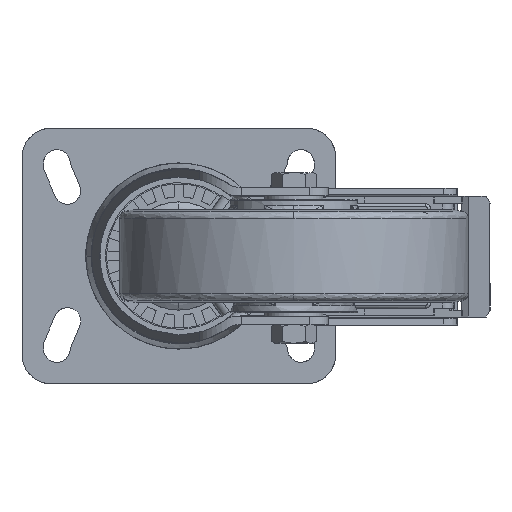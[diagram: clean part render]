
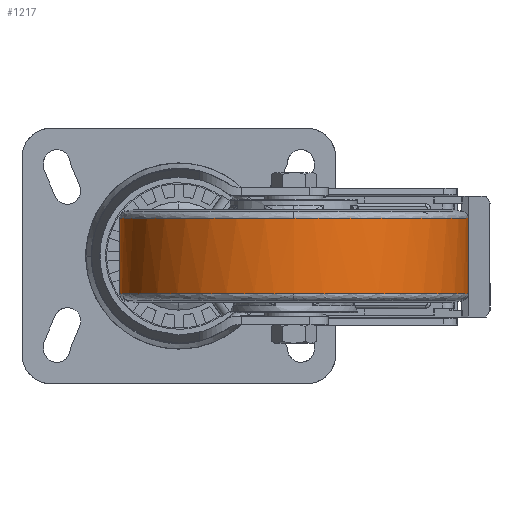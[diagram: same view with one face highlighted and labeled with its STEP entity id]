
A CAD part, front view. The second image highlights one B-rep face of the part: STEP entity #1217.
In plain terms, the highlighted cylindrical face has radius 75 mm (diameter 150 mm), a partial arc.
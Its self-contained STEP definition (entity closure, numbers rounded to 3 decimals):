
#628=CARTESIAN_POINT('',(-25.5,-113.1,-16.248));
#629=VERTEX_POINT('',#628);
#651=CARTESIAN_POINT('',(-25.5,-113.1,16.248));
#652=VERTEX_POINT('',#651);
#653=CARTESIAN_POINT('',(-25.5,-113.1,-16.248));
#654=DIRECTION('',(0.0,0.0,1.0));
#655=VECTOR('',#654,32.497);
#656=LINE('',#653,#655);
#657=EDGE_CURVE('',#629,#652,#656,.T.);
#682=CARTESIAN_POINT('',(124.5,-113.1,16.248));
#683=VERTEX_POINT('',#682);
#705=CARTESIAN_POINT('',(124.5,-113.1,-16.248));
#706=VERTEX_POINT('',#705);
#707=CARTESIAN_POINT('',(124.5,-113.1,-16.248));
#708=DIRECTION('',(0.0,0.0,1.0));
#709=VECTOR('',#708,32.497);
#710=LINE('',#707,#709);
#711=EDGE_CURVE('',#706,#683,#710,.T.);
#899=CARTESIAN_POINT('',(49.5,-188.1,-16.248));
#900=VERTEX_POINT('',#899);
#911=CARTESIAN_POINT('',(-25.5,-113.1,-16.248));
#912=CARTESIAN_POINT('',(-25.5,-118.009,-16.248));
#913=CARTESIAN_POINT('',(-25.017,-122.917,-16.248));
#914=CARTESIAN_POINT('',(-23.101,-132.546,-16.248));
#915=CARTESIAN_POINT('',(-21.669,-137.266,-16.248));
#916=CARTESIAN_POINT('',(-17.912,-146.336,-16.248));
#917=CARTESIAN_POINT('',(-15.587,-150.686,-16.248));
#918=CARTESIAN_POINT('',(-10.133,-158.849,-16.248));
#919=CARTESIAN_POINT('',(-7.004,-162.662,-16.248));
#920=CARTESIAN_POINT('',(-0.062,-169.604,-16.248));
#921=CARTESIAN_POINT('',(3.751,-172.733,-16.248));
#922=CARTESIAN_POINT('',(11.914,-178.187,-16.248));
#923=CARTESIAN_POINT('',(16.264,-180.512,-16.248));
#924=CARTESIAN_POINT('',(25.334,-184.269,-16.248));
#925=CARTESIAN_POINT('',(30.054,-185.701,-16.248));
#926=CARTESIAN_POINT('',(39.683,-187.617,-16.248));
#927=CARTESIAN_POINT('',(44.591,-188.1,-16.248));
#928=CARTESIAN_POINT('',(49.5,-188.1,-16.248));
#929=B_SPLINE_CURVE_WITH_KNOTS('',3,(#911,#912,#913,#914,#915,#916,#917,#918,#919,#920,#921,#922,#923,#924,#925,#926,#927,#928),.UNSPECIFIED.,.F.,.U.,(4,2,2,2,2,2,2,2,4),(0.5,0.563,0.625,0.688,0.75,0.813,0.875,0.938,1.0),.UNSPECIFIED.);
#930=EDGE_CURVE('',#629,#900,#929,.T.);
#1109=CARTESIAN_POINT('',(49.5,-188.1,-16.248));
#1110=CARTESIAN_POINT('',(54.409,-188.1,-16.248));
#1111=CARTESIAN_POINT('',(59.317,-187.617,-16.248));
#1112=CARTESIAN_POINT('',(68.946,-185.701,-16.248));
#1113=CARTESIAN_POINT('',(73.666,-184.269,-16.248));
#1114=CARTESIAN_POINT('',(82.736,-180.512,-16.248));
#1115=CARTESIAN_POINT('',(87.086,-178.187,-16.248));
#1116=CARTESIAN_POINT('',(95.249,-172.733,-16.248));
#1117=CARTESIAN_POINT('',(99.062,-169.604,-16.248));
#1118=CARTESIAN_POINT('',(106.004,-162.662,-16.248));
#1119=CARTESIAN_POINT('',(109.133,-158.849,-16.248));
#1120=CARTESIAN_POINT('',(114.587,-150.686,-16.248));
#1121=CARTESIAN_POINT('',(116.912,-146.336,-16.248));
#1122=CARTESIAN_POINT('',(120.669,-137.266,-16.248));
#1123=CARTESIAN_POINT('',(122.101,-132.546,-16.248));
#1124=CARTESIAN_POINT('',(124.017,-122.917,-16.248));
#1125=CARTESIAN_POINT('',(124.5,-118.009,-16.248));
#1126=CARTESIAN_POINT('',(124.5,-113.1,-16.248));
#1127=B_SPLINE_CURVE_WITH_KNOTS('',3,(#1109,#1110,#1111,#1112,#1113,#1114,#1115,#1116,#1117,#1118,#1119,#1120,#1121,#1122,#1123,#1124,#1125,#1126),.UNSPECIFIED.,.F.,.U.,(4,2,2,2,2,2,2,2,4),(0.0,0.063,0.125,0.188,0.25,0.313,0.375,0.438,0.5),.UNSPECIFIED.);
#1128=EDGE_CURVE('',#900,#706,#1127,.T.);
#1162=CARTESIAN_POINT('',(49.5,-113.1,-16.248));
#1163=DIRECTION('',(0.0,0.0,1.0));
#1164=DIRECTION('',(0.0,1.0,0.0));
#1165=AXIS2_PLACEMENT_3D('',#1162,#1163,#1164);
#1166=CYLINDRICAL_SURFACE('',#1165,75.);
#1167=ORIENTED_EDGE('',*,*,#657,.F.);
#1168=ORIENTED_EDGE('',*,*,#930,.T.);
#1169=ORIENTED_EDGE('',*,*,#1128,.T.);
#1170=ORIENTED_EDGE('',*,*,#711,.T.);
#1171=CARTESIAN_POINT('',(49.5,-188.1,16.248));
#1172=VERTEX_POINT('',#1171);
#1173=CARTESIAN_POINT('',(124.5,-113.1,16.248));
#1174=CARTESIAN_POINT('',(124.5,-118.009,16.248));
#1175=CARTESIAN_POINT('',(124.017,-122.917,16.248));
#1176=CARTESIAN_POINT('',(122.101,-132.546,16.248));
#1177=CARTESIAN_POINT('',(120.669,-137.266,16.248));
#1178=CARTESIAN_POINT('',(116.912,-146.336,16.248));
#1179=CARTESIAN_POINT('',(114.587,-150.686,16.248));
#1180=CARTESIAN_POINT('',(109.133,-158.849,16.248));
#1181=CARTESIAN_POINT('',(106.004,-162.662,16.248));
#1182=CARTESIAN_POINT('',(99.062,-169.604,16.248));
#1183=CARTESIAN_POINT('',(95.249,-172.733,16.248));
#1184=CARTESIAN_POINT('',(87.086,-178.187,16.248));
#1185=CARTESIAN_POINT('',(82.736,-180.512,16.248));
#1186=CARTESIAN_POINT('',(73.666,-184.269,16.248));
#1187=CARTESIAN_POINT('',(68.946,-185.701,16.248));
#1188=CARTESIAN_POINT('',(59.317,-187.617,16.248));
#1189=CARTESIAN_POINT('',(54.409,-188.1,16.248));
#1190=CARTESIAN_POINT('',(49.5,-188.1,16.248));
#1191=B_SPLINE_CURVE_WITH_KNOTS('',3,(#1173,#1174,#1175,#1176,#1177,#1178,#1179,#1180,#1181,#1182,#1183,#1184,#1185,#1186,#1187,#1188,#1189,#1190),.UNSPECIFIED.,.F.,.U.,(4,2,2,2,2,2,2,2,4),(0.5,0.563,0.625,0.688,0.75,0.813,0.875,0.938,1.0),.UNSPECIFIED.);
#1192=EDGE_CURVE('',#683,#1172,#1191,.T.);
#1193=ORIENTED_EDGE('',*,*,#1192,.T.);
#1194=CARTESIAN_POINT('',(49.5,-188.1,16.248));
#1195=CARTESIAN_POINT('',(44.591,-188.1,16.248));
#1196=CARTESIAN_POINT('',(39.683,-187.617,16.248));
#1197=CARTESIAN_POINT('',(30.054,-185.701,16.248));
#1198=CARTESIAN_POINT('',(25.334,-184.269,16.248));
#1199=CARTESIAN_POINT('',(16.264,-180.512,16.248));
#1200=CARTESIAN_POINT('',(11.914,-178.187,16.248));
#1201=CARTESIAN_POINT('',(3.751,-172.733,16.248));
#1202=CARTESIAN_POINT('',(-0.062,-169.604,16.248));
#1203=CARTESIAN_POINT('',(-7.004,-162.662,16.248));
#1204=CARTESIAN_POINT('',(-10.133,-158.849,16.248));
#1205=CARTESIAN_POINT('',(-15.587,-150.686,16.248));
#1206=CARTESIAN_POINT('',(-17.912,-146.336,16.248));
#1207=CARTESIAN_POINT('',(-21.669,-137.266,16.248));
#1208=CARTESIAN_POINT('',(-23.101,-132.546,16.248));
#1209=CARTESIAN_POINT('',(-25.017,-122.917,16.248));
#1210=CARTESIAN_POINT('',(-25.5,-118.009,16.248));
#1211=CARTESIAN_POINT('',(-25.5,-113.1,16.248));
#1212=B_SPLINE_CURVE_WITH_KNOTS('',3,(#1194,#1195,#1196,#1197,#1198,#1199,#1200,#1201,#1202,#1203,#1204,#1205,#1206,#1207,#1208,#1209,#1210,#1211),.UNSPECIFIED.,.F.,.U.,(4,2,2,2,2,2,2,2,4),(0.0,0.063,0.125,0.188,0.25,0.313,0.375,0.438,0.5),.UNSPECIFIED.);
#1213=EDGE_CURVE('',#1172,#652,#1212,.T.);
#1214=ORIENTED_EDGE('',*,*,#1213,.T.);
#1215=EDGE_LOOP('',(#1167,#1168,#1169,#1170,#1193,#1214));
#1216=FACE_OUTER_BOUND('',#1215,.T.);
#1217=ADVANCED_FACE('',(#1216),#1166,.T.);
